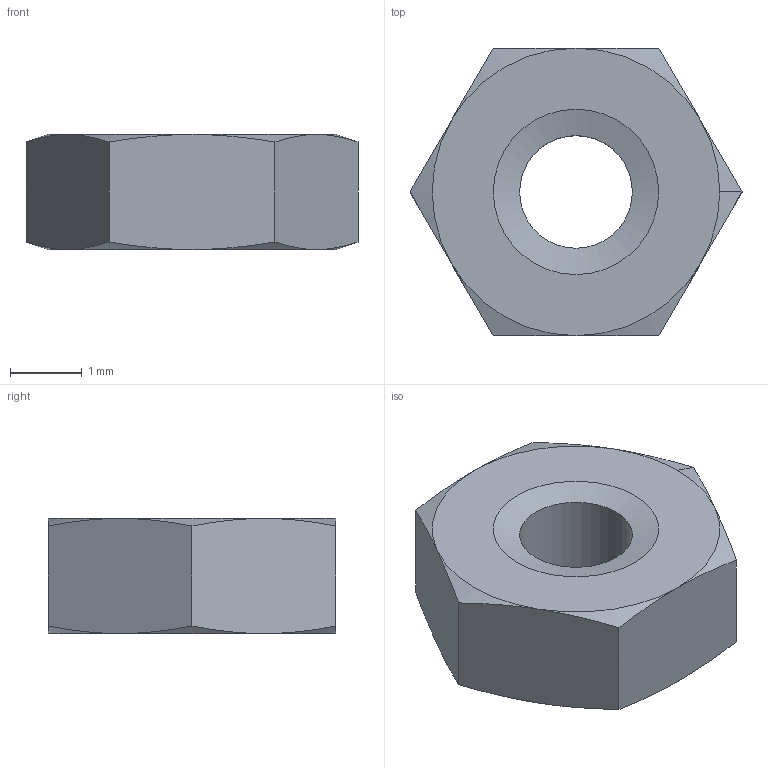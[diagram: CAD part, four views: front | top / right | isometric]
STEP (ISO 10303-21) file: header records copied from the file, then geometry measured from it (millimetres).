
FILE_DESCRIPTION(('FreeCAD Model'),'2;1');
FILE_NAME('Open CASCADE Shape Model','2022-11-10T09:17:05',( 'kicad StepUp'),('ksu MCAD'),'Open CASCADE STEP processor 7.5', 'FreeCAD','Unknown');
FILE_SCHEMA(('AUTOMOTIVE_DESIGN { 1 0 10303 214 1 1 1 1 }'));
Length unit declared in the file: millimetre
Products named in the file (1): M2-Nut
Bounding box: 4.62 x 4 x 1.6 mm (x, y, z)
Volume: 18.8 mm3; surface area: 52.2 mm2
Topology: 1 solids, 1 shells, 25 faces, 53 edges, 30 vertices
Faces by surface type: cone 16, plane 8, cylinder 1
Full cylindrical faces by diameter (mm): 1.567 x1
Entity records: 707 total; most frequent: DIRECTION 147, CARTESIAN_POINT 109, ORIENTED_EDGE 106, AXIS2_PLACEMENT_3D 68, EDGE_CURVE 53, VERTEX_POINT 30, FACE_BOUND 27, EDGE_LOOP 27
